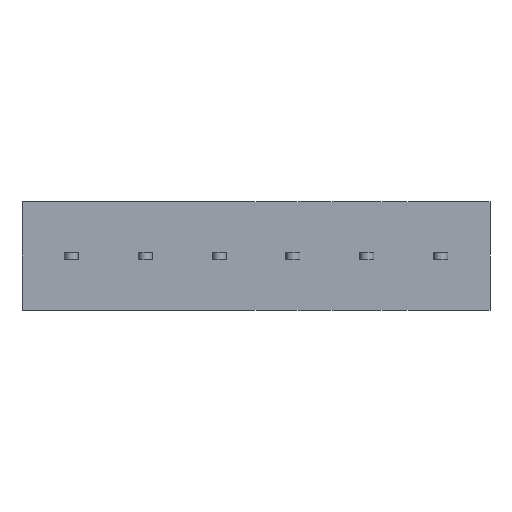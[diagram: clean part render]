
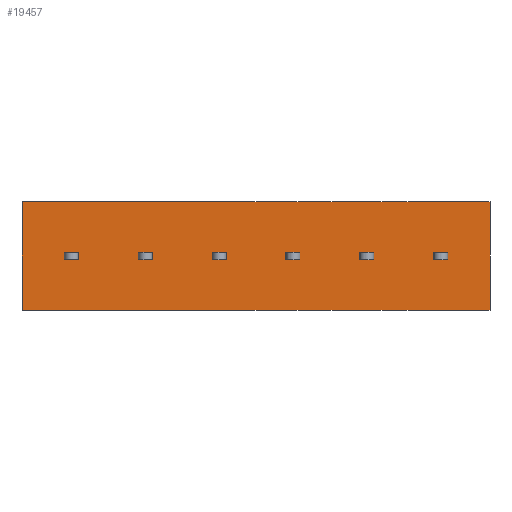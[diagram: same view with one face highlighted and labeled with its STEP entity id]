
A CAD part, front view. The second image highlights one B-rep face of the part: STEP entity #19457.
In plain terms, the highlighted planar face has unit normal (0, -1, 0).
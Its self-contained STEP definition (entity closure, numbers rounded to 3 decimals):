
#1354=VERTEX_POINT('',#26533);
#1355=VERTEX_POINT('',#26534);
#1358=VERTEX_POINT('',#26542);
#1388=VERTEX_POINT('',#26612);
#1574=VERTEX_POINT('',#27204);
#1575=VERTEX_POINT('',#27205);
#1578=VERTEX_POINT('',#27213);
#1608=VERTEX_POINT('',#27283);
#1894=VERTEX_POINT('',#28203);
#1895=VERTEX_POINT('',#28204);
#1900=VERTEX_POINT('',#28218);
#1907=VERTEX_POINT('',#28244);
#1973=VERTEX_POINT('',#28390);
#1974=VERTEX_POINT('',#28392);
#1979=VERTEX_POINT('',#28440);
#1980=VERTEX_POINT('',#28441);
#1992=VERTEX_POINT('',#28471);
#1993=VERTEX_POINT('',#28472);
#1994=VERTEX_POINT('',#28474);
#1995=VERTEX_POINT('',#28476);
#1996=VERTEX_POINT('',#28479);
#1997=VERTEX_POINT('',#28480);
#1998=VERTEX_POINT('',#28482);
#1999=VERTEX_POINT('',#28484);
#2000=VERTEX_POINT('',#28487);
#2001=VERTEX_POINT('',#28488);
#2002=VERTEX_POINT('',#28490);
#2003=VERTEX_POINT('',#28492);
#3361=VECTOR('',#22074,1.);
#3364=VECTOR('',#22080,1.);
#3394=VECTOR('',#22126,1.);
#3397=VECTOR('',#22134,1.);
#3593=VECTOR('',#22584,1.);
#3596=VECTOR('',#22590,1.);
#3626=VECTOR('',#22636,1.);
#3629=VECTOR('',#22644,1.);
#3931=VECTOR('',#23318,1.);
#3936=VECTOR('',#23330,1.);
#3945=VECTOR('',#23355,1.);
#3947=VECTOR('',#23358,1.);
#3995=VECTOR('',#23460,1.);
#4020=VECTOR('',#23511,1.);
#4037=VECTOR('',#23529,1.);
#4038=VECTOR('',#23530,1.);
#4039=VECTOR('',#23531,1.);
#4040=VECTOR('',#23532,1.);
#4041=VECTOR('',#23533,1.);
#4042=VECTOR('',#23534,1.);
#4043=VECTOR('',#23535,1.);
#4044=VECTOR('',#23536,1.);
#4045=VECTOR('',#23537,1.);
#4046=VECTOR('',#23538,1.);
#4047=VECTOR('',#23539,1.);
#4048=VECTOR('',#23540,1.);
#4049=VECTOR('',#23541,1.);
#4050=VECTOR('',#23542,1.);
#5581=LINE('',#26532,#3361);
#5584=LINE('',#26541,#3364);
#5614=LINE('',#26611,#3394);
#5617=LINE('',#26619,#3397);
#5813=LINE('',#27203,#3593);
#5816=LINE('',#27212,#3596);
#5846=LINE('',#27282,#3626);
#5849=LINE('',#27290,#3629);
#6151=LINE('',#28202,#3931);
#6156=LINE('',#28217,#3936);
#6165=LINE('',#28243,#3945);
#6167=LINE('',#28247,#3947);
#6215=LINE('',#28391,#3995);
#6240=LINE('',#28439,#4020);
#6257=LINE('',#28470,#4037);
#6258=LINE('',#28473,#4038);
#6259=LINE('',#28475,#4039);
#6260=LINE('',#28477,#4040);
#6261=LINE('',#28478,#4041);
#6262=LINE('',#28481,#4042);
#6263=LINE('',#28483,#4043);
#6264=LINE('',#28485,#4044);
#6265=LINE('',#28486,#4045);
#6266=LINE('',#28489,#4046);
#6267=LINE('',#28491,#4047);
#6268=LINE('',#28493,#4048);
#6269=LINE('',#28494,#4049);
#6270=LINE('',#28495,#4050);
#7896=EDGE_CURVE('',#1354,#1355,#5581,.T.);
#7900=EDGE_CURVE('',#1355,#1358,#5584,.T.);
#7938=EDGE_CURVE('',#1358,#1388,#5614,.T.);
#7942=EDGE_CURVE('',#1388,#1354,#5617,.T.);
#8223=EDGE_CURVE('',#1574,#1575,#5813,.T.);
#8227=EDGE_CURVE('',#1575,#1578,#5816,.T.);
#8265=EDGE_CURVE('',#1578,#1608,#5846,.T.);
#8269=EDGE_CURVE('',#1608,#1574,#5849,.T.);
#8705=EDGE_CURVE('',#1894,#1895,#6151,.T.);
#8712=EDGE_CURVE('',#1900,#1894,#6156,.T.);
#8727=EDGE_CURVE('',#1907,#1900,#6165,.T.);
#8729=EDGE_CURVE('',#1895,#1907,#6167,.T.);
#8801=EDGE_CURVE('',#1974,#1973,#6215,.T.);
#8826=EDGE_CURVE('',#1979,#1980,#6240,.T.);
#8843=EDGE_CURVE('',#1992,#1993,#6257,.T.);
#8844=EDGE_CURVE('',#1993,#1994,#6258,.T.);
#8845=EDGE_CURVE('',#1994,#1995,#6259,.T.);
#8846=EDGE_CURVE('',#1995,#1992,#6260,.T.);
#8847=EDGE_CURVE('',#1996,#1997,#6261,.T.);
#8848=EDGE_CURVE('',#1997,#1998,#6262,.T.);
#8849=EDGE_CURVE('',#1998,#1999,#6263,.T.);
#8850=EDGE_CURVE('',#1999,#1996,#6264,.T.);
#8851=EDGE_CURVE('',#2000,#2001,#6265,.T.);
#8852=EDGE_CURVE('',#2002,#2000,#6266,.T.);
#8853=EDGE_CURVE('',#2003,#2002,#6267,.T.);
#8854=EDGE_CURVE('',#2001,#2003,#6268,.T.);
#8855=EDGE_CURVE('',#1973,#1980,#6269,.T.);
#8856=EDGE_CURVE('',#1979,#1974,#6270,.T.);
#12967=ORIENTED_EDGE('',*,*,#8843,.T.);
#12968=ORIENTED_EDGE('',*,*,#8844,.T.);
#12969=ORIENTED_EDGE('',*,*,#8845,.T.);
#12970=ORIENTED_EDGE('',*,*,#8846,.T.);
#12971=ORIENTED_EDGE('',*,*,#8847,.T.);
#12972=ORIENTED_EDGE('',*,*,#8848,.T.);
#12973=ORIENTED_EDGE('',*,*,#8849,.T.);
#12974=ORIENTED_EDGE('',*,*,#8850,.T.);
#12975=ORIENTED_EDGE('',*,*,#7938,.F.);
#12976=ORIENTED_EDGE('',*,*,#7900,.F.);
#12977=ORIENTED_EDGE('',*,*,#7896,.F.);
#12978=ORIENTED_EDGE('',*,*,#7942,.F.);
#12979=ORIENTED_EDGE('',*,*,#8851,.F.);
#12980=ORIENTED_EDGE('',*,*,#8852,.F.);
#12981=ORIENTED_EDGE('',*,*,#8853,.F.);
#12982=ORIENTED_EDGE('',*,*,#8854,.F.);
#12983=ORIENTED_EDGE('',*,*,#8265,.F.);
#12984=ORIENTED_EDGE('',*,*,#8227,.F.);
#12985=ORIENTED_EDGE('',*,*,#8223,.F.);
#12986=ORIENTED_EDGE('',*,*,#8269,.F.);
#12987=ORIENTED_EDGE('',*,*,#8712,.F.);
#12988=ORIENTED_EDGE('',*,*,#8727,.F.);
#12989=ORIENTED_EDGE('',*,*,#8729,.F.);
#12990=ORIENTED_EDGE('',*,*,#8705,.F.);
#12991=ORIENTED_EDGE('',*,*,#8801,.T.);
#12992=ORIENTED_EDGE('',*,*,#8855,.T.);
#12993=ORIENTED_EDGE('',*,*,#8826,.F.);
#12994=ORIENTED_EDGE('',*,*,#8856,.T.);
#17081=EDGE_LOOP('',(#12967,#12968,#12969,#12970));
#17082=EDGE_LOOP('',(#12971,#12972,#12973,#12974));
#17083=EDGE_LOOP('',(#12975,#12976,#12977,#12978));
#17084=EDGE_LOOP('',(#12979,#12980,#12981,#12982));
#17085=EDGE_LOOP('',(#12983,#12984,#12985,#12986));
#17086=EDGE_LOOP('',(#12987,#12988,#12989,#12990));
#17087=EDGE_LOOP('',(#12991,#12992,#12993,#12994));
#18285=FACE_BOUND('',#17081,.T.);
#18286=FACE_BOUND('',#17082,.T.);
#18287=FACE_BOUND('',#17083,.T.);
#18288=FACE_BOUND('',#17084,.T.);
#18289=FACE_BOUND('',#17085,.T.);
#18290=FACE_BOUND('',#17086,.T.);
#18291=FACE_BOUND('',#17087,.T.);
#19457=ADVANCED_FACE('',(#18285,#18286,#18287,#18288,#18289,#18290,#18291),
#33288,.T.);
#20826=AXIS2_PLACEMENT_3D('',#28469,#23528,$);
#22074=DIRECTION('',(1.,0.,0.));
#22080=DIRECTION('',(0.,0.,1.));
#22126=DIRECTION('',(-1.,0.,0.));
#22134=DIRECTION('',(0.,0.,-1.));
#22584=DIRECTION('',(1.,0.,0.));
#22590=DIRECTION('',(0.,0.,1.));
#22636=DIRECTION('',(-1.,0.,0.));
#22644=DIRECTION('',(0.,0.,-1.));
#23318=DIRECTION('',(0.,0.,-1.));
#23330=DIRECTION('',(-1.,0.,0.));
#23355=DIRECTION('',(0.,0.,1.));
#23358=DIRECTION('',(1.,0.,0.));
#23460=DIRECTION('',(1.,0.,0.));
#23511=DIRECTION('',(1.,0.,0.));
#23528=DIRECTION('',(0.,-1.,0.));
#23529=DIRECTION('',(1.,0.,0.));
#23530=DIRECTION('',(0.,0.,-1.));
#23531=DIRECTION('',(-1.,0.,0.));
#23532=DIRECTION('',(0.,0.,1.));
#23533=DIRECTION('',(1.,0.,0.));
#23534=DIRECTION('',(0.,0.,-1.));
#23535=DIRECTION('',(-1.,0.,0.));
#23536=DIRECTION('',(0.,0.,1.));
#23537=DIRECTION('',(-1.,0.,0.));
#23538=DIRECTION('',(0.,0.,1.));
#23539=DIRECTION('',(1.,0.,0.));
#23540=DIRECTION('',(0.,0.,-1.));
#23541=DIRECTION('',(0.,0.,1.));
#23542=DIRECTION('',(0.,0.,-1.));
#26532=CARTESIAN_POINT('',(51.825,0.,-0.5));
#26533=CARTESIAN_POINT('',(52.95,0.,-0.5));
#26534=CARTESIAN_POINT('',(54.75,0.,-0.5));
#26541=CARTESIAN_POINT('',(54.75,0.,1.75));
#26542=CARTESIAN_POINT('',(54.75,0.,0.5));
#26611=CARTESIAN_POINT('',(51.825,0.,0.5));
#26612=CARTESIAN_POINT('',(52.95,0.,0.5));
#26619=CARTESIAN_POINT('',(52.95,0.,1.75));
#27203=CARTESIAN_POINT('',(32.825,0.,-0.5));
#27204=CARTESIAN_POINT('',(33.95,0.,-0.5));
#27205=CARTESIAN_POINT('',(35.75,0.,-0.5));
#27212=CARTESIAN_POINT('',(35.75,0.,1.75));
#27213=CARTESIAN_POINT('',(35.75,0.,0.5));
#27282=CARTESIAN_POINT('',(32.825,0.,0.5));
#27283=CARTESIAN_POINT('',(33.95,0.,0.5));
#27290=CARTESIAN_POINT('',(33.95,0.,1.75));
#28202=CARTESIAN_POINT('',(24.45,0.,1.75));
#28203=CARTESIAN_POINT('',(24.45,0.,0.5));
#28204=CARTESIAN_POINT('',(24.45,0.,-0.5));
#28217=CARTESIAN_POINT('',(23.325,0.,0.5));
#28218=CARTESIAN_POINT('',(26.25,0.,0.5));
#28243=CARTESIAN_POINT('',(26.25,0.,1.75));
#28244=CARTESIAN_POINT('',(26.25,0.,-0.5));
#28247=CARTESIAN_POINT('',(23.325,0.,-0.5));
#28390=CARTESIAN_POINT('',(60.2,0.,-7.));
#28391=CARTESIAN_POINT('',(19.9,0.,-7.));
#28392=CARTESIAN_POINT('',(0.,0.,-7.));
#28439=CARTESIAN_POINT('',(0.,0.,7.));
#28440=CARTESIAN_POINT('',(0.,0.,7.));
#28441=CARTESIAN_POINT('',(60.2,0.,7.));
#28469=CARTESIAN_POINT('',(19.9,0.,0.));
#28470=CARTESIAN_POINT('',(13.125,0.,0.5));
#28471=CARTESIAN_POINT('',(5.45,0.,0.5));
#28472=CARTESIAN_POINT('',(7.25,0.,0.5));
#28473=CARTESIAN_POINT('',(7.25,0.,1.75));
#28474=CARTESIAN_POINT('',(7.25,0.,-0.5));
#28475=CARTESIAN_POINT('',(13.125,0.,-0.5));
#28476=CARTESIAN_POINT('',(5.45,0.,-0.5));
#28477=CARTESIAN_POINT('',(5.45,0.,1.75));
#28478=CARTESIAN_POINT('',(17.875,0.,0.5));
#28479=CARTESIAN_POINT('',(14.95,0.,0.5));
#28480=CARTESIAN_POINT('',(16.75,0.,0.5));
#28481=CARTESIAN_POINT('',(16.75,0.,1.75));
#28482=CARTESIAN_POINT('',(16.75,0.,-0.5));
#28483=CARTESIAN_POINT('',(17.875,0.,-0.5));
#28484=CARTESIAN_POINT('',(14.95,0.,-0.5));
#28485=CARTESIAN_POINT('',(14.95,0.,1.75));
#28486=CARTESIAN_POINT('',(42.325,0.,0.5));
#28487=CARTESIAN_POINT('',(45.25,0.,0.5));
#28488=CARTESIAN_POINT('',(43.45,0.,0.5));
#28489=CARTESIAN_POINT('',(45.25,0.,1.75));
#28490=CARTESIAN_POINT('',(45.25,0.,-0.5));
#28491=CARTESIAN_POINT('',(42.325,0.,-0.5));
#28492=CARTESIAN_POINT('',(43.45,0.,-0.5));
#28493=CARTESIAN_POINT('',(43.45,0.,1.75));
#28494=CARTESIAN_POINT('',(60.2,0.,7.));
#28495=CARTESIAN_POINT('',(0.,0.,7.));
#33288=PLANE('',#20826);
